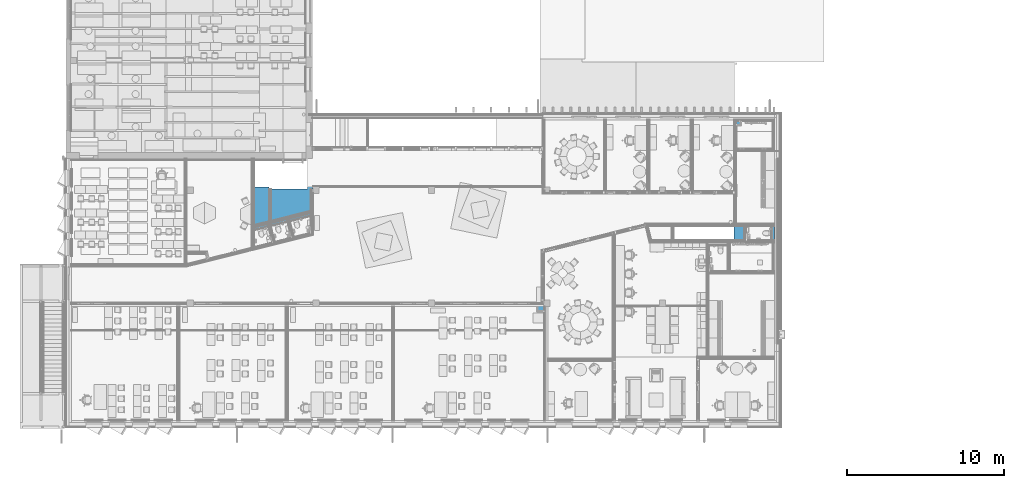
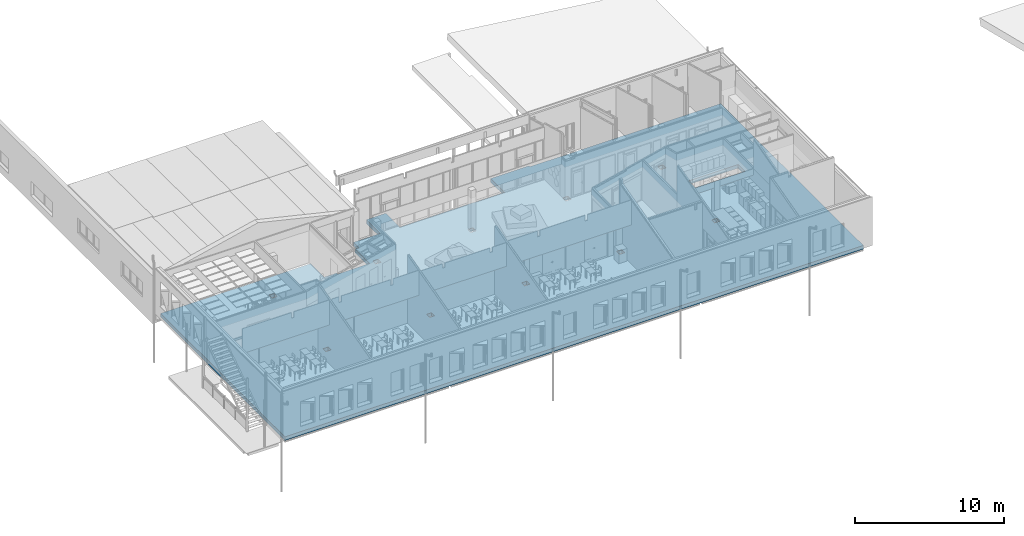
# One storey, part 59 of 153: 1 building element part, 1 element without a shape of its own.
"""IFC2X3 building model written with IfcOpenShell, lengths in millimetres."""

from ifc_helpers import new_model, entity, si_unit, converted_unit, derived_unit, money_unit, direction, frame, origin_with_axes, place, context, subcontext, project, spatial, faceted_brep, material, type_object, element, aggregate, save


model = new_model("IFC2X3")

# Units and contexts
model_context = context("Model", 3, precision=0.01, world=origin_with_axes(), true_north=direction((0.0, 1.0)))
body_context = subcontext(model_context, "Body", "Model", "MODEL_VIEW")
ifc_project = project(units=[si_unit("LENGTHUNIT", "METRE", prefix="MILLI"), si_unit("AREAUNIT", "SQUARE_METRE"), si_unit("VOLUMEUNIT", "CUBIC_METRE"), converted_unit("PLANEANGLEUNIT", "DEGREE", entity("IfcPlaneAngleMeasure", 0.0174532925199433), si_unit("PLANEANGLEUNIT", "RADIAN"), dimensions=[0, 0, 0, 0, 0, 0, 0]), money_unit("EUR"), converted_unit("TIMEUNIT", "Year", entity("IfcTimeMeasure", 31557600.0), si_unit("TIMEUNIT", "SECOND"), dimensions=[0, 0, 1, 0, 0, 0, 0]), si_unit("MASSUNIT", "GRAM", prefix="KILO"), si_unit("THERMODYNAMICTEMPERATUREUNIT", "DEGREE_CELSIUS"), si_unit("LUMINOUSINTENSITYUNIT", "LUMEN"), si_unit("ENERGYUNIT", "JOULE", prefix="MEGA"), derived_unit("THERMALCONDUCTANCEUNIT", [(si_unit("POWERUNIT", "WATT"), 1), (si_unit("LENGTHUNIT", "METRE"), -1), (si_unit("THERMODYNAMICTEMPERATUREUNIT", "KELVIN"), -1)]), derived_unit("SPECIFICHEATCAPACITYUNIT", [(si_unit("ENERGYUNIT", "JOULE"), 1), (si_unit("MASSUNIT", "GRAM", prefix="KILO"), -1), (si_unit("THERMODYNAMICTEMPERATUREUNIT", "KELVIN"), -1)]), derived_unit("MASSDENSITYUNIT", [(si_unit("MASSUNIT", "GRAM", prefix="KILO"), 1), (si_unit("VOLUMEUNIT", "CUBIC_METRE"), -1)])], contexts=[model_context])

# Site, building, storey
site_placement = place(None, frame((0.0, 0.0, 8650.0), z_axis=(0.0, 0.0, 1.0), x_axis=(1.0, 0.0, 0.0)))
site = spatial("IfcSite", under=ifc_project, at=site_placement, Name="43301:001:0844", CompositionType="ELEMENT")
building_placement = place(site_placement, origin_with_axes())
building = spatial("IfcBuilding", under=site, at=building_placement, Name="Kuressaare Ametikooli tuulikute mehaanikute õppekorpus", CompositionType="ELEMENT")
storey_placement = place(building_placement, frame((0.0, 0.0, 4100.0), z_axis=(0.0, 0.0, 1.0), x_axis=(1.0, 0.0, 0.0)))
storey = spatial("IfcBuildingStorey", under=building, at=storey_placement, Name="2.korrus", CompositionType="ELEMENT", Elevation=4100.0)

# Slab, building element part
slab_type = type_object("IfcSlabType", Name="VL1 570", PredefinedType="NOTDEFINED")
slab_placement = place(storey_placement, frame((88318.22664518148, 25783.06892395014, 0.0), z_axis=(0.0, 0.0, 1.0), x_axis=(1.0, 0.0, 0.0)))
slab = element("IfcSlab", 1, at=slab_placement, inside=storey, type_object=slab_type, Name="VL-1", PredefinedType="NOTDEFINED")
ifc_material = material(Name="Puit - CLT")
building_element_part_placement = place(slab_placement, origin_with_axes())
building_element_part = element("IfcBuildingElementPart", 2, at=building_element_part_placement, material=ifc_material, Name="Puit - CLT", context=body_context, shape_type="Brep", body=[
    faceted_brep([(0.0, -16659.23043340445, -409.9999999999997), (0.0, 0.0, -409.9999999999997), (11614.3916432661, 0.0, -409.9999999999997), (11614.3916432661, -1808.999280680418, -409.9999999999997), (12565.49873778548, -1808.999280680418, -409.9999999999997), (12565.49873778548, -1948.999280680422, -409.9999999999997), (15027.42804624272, -1948.999280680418, -409.9999999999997), (15027.42804624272, 0.0, -409.9999999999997), (15329.28556184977, 0.0, -409.9999999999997), (15329.28556184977, 726.5048248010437, -409.9999999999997), (17388.87603085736, 726.5048248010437, -409.9999999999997), (17388.87603085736, 2576.504824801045, -409.9999999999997), (18898.87074251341, 2576.504824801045, -409.9999999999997), (18898.87074251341, 726.5048248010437, -409.9999999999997), (26998.87603711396, 726.5048248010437, -409.9999999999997), (26998.87603711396, 2576.504824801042, -409.9999999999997), (29963.04908520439, 2576.504824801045, -409.9999999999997), (29963.04908520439, 2461.000000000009, -409.9999999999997), (44706.71979804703, 2461.000000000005, -409.9999999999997), (44706.71979532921, -16659.23043340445, -409.9999999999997), (42156.7198374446, -4296.000000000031, -409.9999999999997), (38326.09762534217, -4296.000000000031, -409.9999999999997), (38326.09762534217, -5196.000000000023, -409.9999999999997), (42156.7198374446, -5196.000000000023, -409.9999999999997), (15349.72549660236, -2209.000000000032, -409.9999999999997), (15749.72549660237, -2209.000000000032, -409.9999999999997), (15749.72549660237, -1809.000000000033, -409.9999999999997), (15349.72549660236, -1809.000000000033, -409.9999999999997), (7349.84171196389, -2209.000000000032, -409.9999999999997), (7749.841711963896, -2209.000000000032, -409.9999999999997), (7749.841711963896, -1809.000000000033, -409.9999999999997), (7349.84171196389, -1809.000000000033, -409.9999999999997), (30049.71992631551, -2209.000000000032, -409.9999999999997), (30449.71992631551, -2209.000000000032, -409.9999999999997), (30449.71992631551, -1809.000000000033, -409.9999999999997), (30049.71992631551, -1809.000000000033, -409.9999999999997), (22699.72272942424, -2209.000000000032, -409.9999999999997), (23099.72272942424, -2209.000000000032, -409.9999999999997), (23099.72272942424, -1809.000000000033, -409.9999999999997), (22699.72272942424, -1809.000000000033, -409.9999999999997), (37399.84171196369, -2209.000000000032, -409.9999999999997), (37799.84171196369, -2209.000000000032, -409.9999999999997), (37799.84171196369, -1809.000000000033, -409.9999999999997), (37399.84171196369, -1809.000000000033, -409.9999999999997), (7349.841783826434, -9409.022048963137, -409.9999999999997), (7749.84178382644, -9409.022048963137, -409.9999999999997), (7749.84178382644, -9009.02204896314, -409.9999999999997), (7349.841783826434, -9009.02204896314, -409.9999999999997), (37399.84171196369, -9409.022048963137, -409.9999999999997), (37799.84171196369, -9409.022048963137, -409.9999999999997), (37799.84171196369, -9009.02204896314, -409.9999999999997), (37399.84171196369, -9009.02204896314, -409.9999999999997), (22699.72272942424, -9409.022048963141, -409.9999999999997), (23099.72272942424, -9409.022048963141, -409.9999999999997), (23099.72272942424, -9009.022048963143, -409.9999999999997), (22699.72272942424, -9009.022048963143, -409.9999999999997), (15349.72548502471, -9409.022048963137, -409.9999999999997), (15749.72548502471, -9409.022048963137, -409.9999999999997), (15749.72548502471, -9009.02204896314, -409.9999999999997), (15349.72548502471, -9009.02204896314, -409.9999999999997), (30049.71999817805, -9409.022048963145, -409.9999999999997), (30449.71999817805, -9409.022048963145, -409.9999999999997), (30449.71999817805, -9009.022048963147, -409.9999999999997), (30049.71999817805, -9009.022048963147, -409.9999999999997), (0.0, -16659.23043340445, -109.9999999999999), (0.0, 0.0, -109.9999999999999), (11614.3916432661, 0.0, -109.9999999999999), (11614.3916432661, -1808.999280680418, -109.9999999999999), (12565.49873778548, -1808.999280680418, -109.9999999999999), (12565.49873778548, -1948.999280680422, -109.9999999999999), (15027.42804624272, -1948.999280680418, -109.9999999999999), (15027.42804624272, 0.0, -109.9999999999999), (15329.28556184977, 0.0, -109.9999999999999), (15329.28556184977, 726.5048248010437, -109.9999999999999), (17388.87603085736, 726.5048248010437, -109.9999999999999), (17388.87603085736, 2576.504824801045, -109.9999999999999), (18898.87074251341, 2576.504824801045, -109.9999999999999), (18898.87074251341, 726.5048248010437, -109.9999999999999), (26998.87603711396, 726.5048248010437, -109.9999999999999), (26998.87603711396, 2576.504824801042, -109.9999999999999), (29963.04908520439, 2576.504824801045, -109.9999999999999), (29963.04908520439, 2461.000000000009, -109.9999999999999), (44706.71979804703, 2461.000000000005, -109.9999999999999), (44706.71979532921, -16659.23043340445, -109.9999999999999), (42156.7198374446, -4296.000000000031, -109.9999999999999), (38326.09762534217, -4296.000000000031, -109.9999999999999), (38326.09762534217, -5196.000000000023, -109.9999999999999), (42156.7198374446, -5196.000000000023, -109.9999999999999), (15349.72549660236, -2209.000000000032, -109.9999999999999), (15749.72549660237, -2209.000000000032, -109.9999999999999), (15749.72549660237, -1809.000000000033, -109.9999999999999), (15349.72549660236, -1809.000000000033, -109.9999999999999), (7349.84171196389, -2209.000000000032, -109.9999999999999), (7749.841711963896, -2209.000000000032, -109.9999999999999), (7749.841711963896, -1809.000000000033, -109.9999999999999), (7349.84171196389, -1809.000000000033, -109.9999999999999), (30049.71992631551, -2209.000000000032, -109.9999999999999), (30449.71992631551, -2209.000000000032, -109.9999999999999), (30449.71992631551, -1809.000000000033, -109.9999999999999), (30049.71992631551, -1809.000000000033, -109.9999999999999), (22699.72272942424, -2209.000000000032, -109.9999999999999), (23099.72272942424, -2209.000000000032, -109.9999999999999), (23099.72272942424, -1809.000000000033, -109.9999999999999), (22699.72272942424, -1809.000000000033, -109.9999999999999), (37399.84171196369, -2209.000000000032, -109.9999999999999), (37799.84171196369, -2209.000000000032, -109.9999999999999), (37799.84171196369, -1809.000000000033, -109.9999999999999), (37399.84171196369, -1809.000000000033, -109.9999999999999), (7349.841783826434, -9409.022048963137, -109.9999999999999), (7749.84178382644, -9409.022048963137, -109.9999999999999), (7749.84178382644, -9009.02204896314, -109.9999999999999), (7349.841783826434, -9009.02204896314, -109.9999999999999), (37399.84171196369, -9409.022048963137, -109.9999999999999), (37799.84171196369, -9409.022048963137, -109.9999999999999), (37799.84171196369, -9009.02204896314, -109.9999999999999), (37399.84171196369, -9009.02204896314, -109.9999999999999), (22699.72272942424, -9409.022048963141, -109.9999999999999), (23099.72272942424, -9409.022048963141, -109.9999999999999), (23099.72272942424, -9009.022048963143, -109.9999999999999), (22699.72272942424, -9009.022048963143, -109.9999999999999), (15349.72548502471, -9409.022048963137, -109.9999999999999), (15749.72548502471, -9409.022048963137, -109.9999999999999), (15749.72548502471, -9009.02204896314, -109.9999999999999), (15349.72548502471, -9009.02204896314, -109.9999999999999), (30049.71999817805, -9409.022048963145, -109.9999999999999), (30449.71999817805, -9409.022048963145, -109.9999999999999), (30449.71999817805, -9009.022048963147, -109.9999999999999), (30049.71999817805, -9009.022048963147, -109.9999999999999)], [[[0, 1, 2, 3, 4, 5, 6, 7, 8, 9, 10, 11, 12, 13, 14, 15, 16, 17, 18, 19], [20, 21, 22, 23], [24, 25, 26, 27], [28, 29, 30, 31], [32, 33, 34, 35], [36, 37, 38, 39], [40, 41, 42, 43], [44, 45, 46, 47], [48, 49, 50, 51], [52, 53, 54, 55], [56, 57, 58, 59], [60, 61, 62, 63]], [[1, 0, 64, 65]], [[2, 1, 65, 66]], [[3, 2, 66, 67]], [[4, 3, 67, 68]], [[5, 4, 68, 69]], [[6, 5, 69, 70]], [[7, 6, 70, 71]], [[8, 7, 71, 72]], [[9, 8, 72, 73]], [[10, 9, 73, 74]], [[11, 10, 74, 75]], [[12, 11, 75, 76]], [[13, 12, 76, 77]], [[14, 13, 77, 78]], [[15, 14, 78, 79]], [[16, 15, 79, 80]], [[17, 16, 80, 81]], [[18, 17, 81, 82]], [[19, 18, 82, 83]], [[0, 19, 83, 64]], [[21, 20, 84, 85]], [[22, 21, 85, 86]], [[23, 22, 86, 87]], [[20, 23, 87, 84]], [[88, 89, 25, 24]], [[89, 90, 26, 25]], [[90, 91, 27, 26]], [[91, 88, 24, 27]], [[92, 93, 29, 28]], [[93, 94, 30, 29]], [[94, 95, 31, 30]], [[95, 92, 28, 31]], [[96, 97, 33, 32]], [[97, 98, 34, 33]], [[98, 99, 35, 34]], [[99, 96, 32, 35]], [[100, 101, 37, 36]], [[101, 102, 38, 37]], [[102, 103, 39, 38]], [[103, 100, 36, 39]], [[104, 105, 41, 40]], [[105, 106, 42, 41]], [[106, 107, 43, 42]], [[107, 104, 40, 43]], [[108, 109, 45, 44]], [[109, 110, 46, 45]], [[110, 111, 47, 46]], [[111, 108, 44, 47]], [[112, 113, 49, 48]], [[113, 114, 50, 49]], [[114, 115, 51, 50]], [[115, 112, 48, 51]], [[116, 117, 53, 52]], [[117, 118, 54, 53]], [[118, 119, 55, 54]], [[119, 116, 52, 55]], [[120, 121, 57, 56]], [[121, 122, 58, 57]], [[122, 123, 59, 58]], [[123, 120, 56, 59]], [[124, 125, 61, 60]], [[125, 126, 62, 61]], [[126, 127, 63, 62]], [[127, 124, 60, 63]], [[66, 65, 64, 83, 82, 81, 80, 79, 78, 77, 76, 75, 74, 73, 72, 71, 70, 69, 68, 67], [86, 85, 84, 87], [88, 91, 90, 89], [92, 95, 94, 93], [96, 99, 98, 97], [100, 103, 102, 101], [104, 107, 106, 105], [108, 111, 110, 109], [112, 115, 114, 113], [116, 119, 118, 117], [120, 123, 122, 121], [124, 127, 126, 125]]]),
])
aggregate(slab, [building_element_part])

save(model, "model.ifc")
